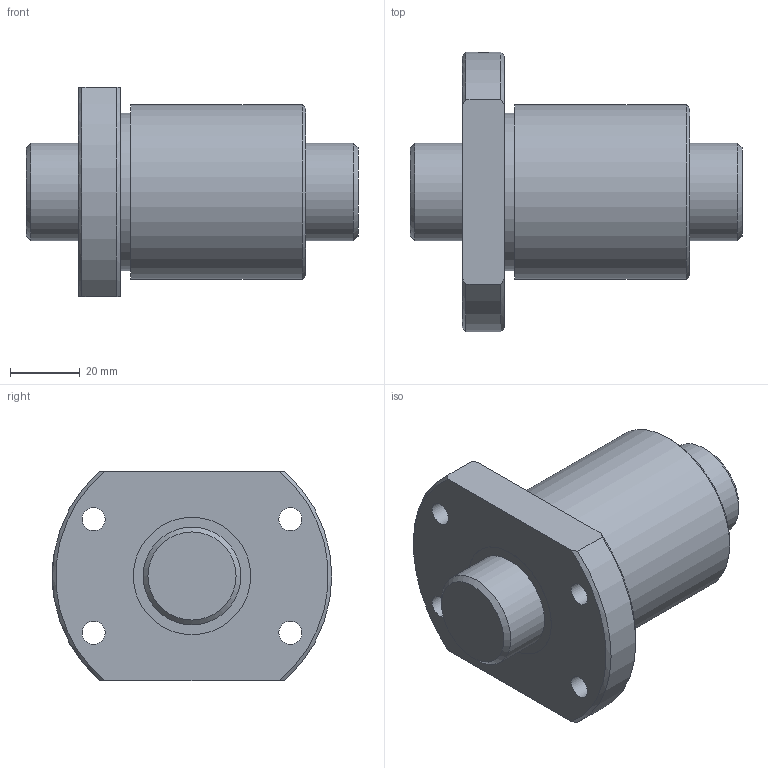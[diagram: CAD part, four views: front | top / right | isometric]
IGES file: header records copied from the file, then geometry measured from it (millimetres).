
Start section: Data from Parasolid IGES Translator 26.0.171, Copyright(c) 2006 Siemens PLM Software. All Rights Reserved.
Global section: file name: BTK2806V-5.3ZZ+95LC7T_000.igs; native system: By Siemens PLM Incorporated; preprocessor: XPlus GENERIC/IGES 26.0.171; author: Noname; organization: Noname; date: 20250116.075737; units: millimetre
Bounding box: 95 x 80 x 60 mm (x, y, z)
Surface area: 35275.6 mm2 (no closed solid volume)
Topology: 0 solids, 0 shells, 31 faces, 142 edges, 127 vertices
Faces by surface type: revolution 21, extrusion 10
